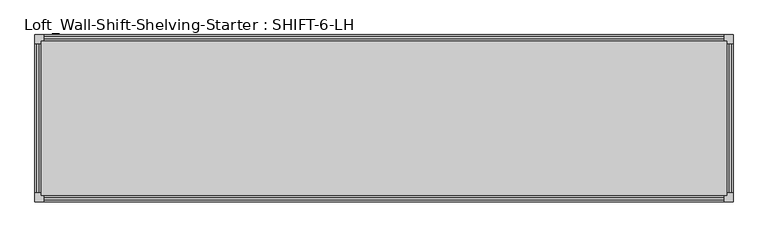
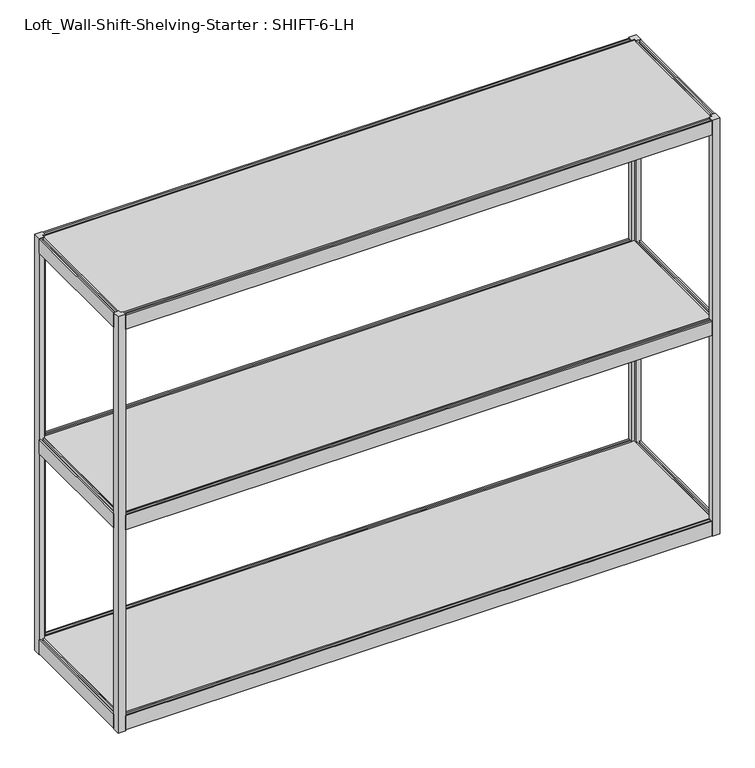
"""IFC4 building model written with IfcOpenShell, lengths in millimetres: furniture geometry, Loft_Wall-Shift-Shelving-Starter : SHIFT-6-LH."""

import ifcopenshell
import ifcopenshell.guid

model = None  # the IFC model being written
_history = None  # IfcOwnerHistory: only IFC2X3 demands one
_inside = {}  # id of a spatial element -> (the spatial element, [elements in it])
_under = {}  # id of a project, library or spatial element -> (it, [spatial elements below it])
_declared = {}  # id of a project -> (the project, [libraries it declares])
_typed = {}  # id of a type object -> (the type object, [elements of that type])
_made_of = {}  # id of a material, layer set ... -> (it, [elements and type objects made of it])


def new_model(schema):
    """Start an empty IFC model of exactly this schema.

    Asked for "IFC4X3", IfcOpenShell would pick the latest addendum, in which some entities
    have other attributes; the version numbers below select the first issue.
    IFC2X3 requires an IfcOwnerHistory on every rooted entity: one is made here for all.
    """
    global model, _history
    if schema == "IFC4X3":
        model = ifcopenshell.file(schema_version=(4, 3, 0, 0))
    else:
        model = ifcopenshell.file(schema=schema)
    _inside.clear()
    _under.clear()
    _declared.clear()
    _typed.clear()
    _made_of.clear()
    _history = None
    if model.schema == "IFC2X3":
        org = make("IfcOrganization", Name="unknown")
        user = make(
            "IfcPersonAndOrganization",
            ThePerson=make("IfcPerson", FamilyName="unknown"),
            TheOrganization=org,
        )
        app = make(
            "IfcApplication",
            ApplicationDeveloper=org,
            Version="unknown",
            ApplicationFullName="unknown",
            ApplicationIdentifier="unknown",
        )
        _history = make(
            "IfcOwnerHistory",
            OwningUser=user,
            OwningApplication=app,
            ChangeAction="ADDED",
            CreationDate=0,
        )
    return model


def make(cls, **values):
    """One entity of the class cls with the attributes given. An attribute that is None is left unset."""
    return model.create_entity(
        cls, **{name: value for name, value in values.items() if value is not None}
    )


def rooted(cls, **values):
    """An entity with a GlobalId (a new one), such as an element, a storey or a relation."""
    return make(cls, GlobalId=ifcopenshell.guid.new(), OwnerHistory=_history, **values)


def si_unit(unit_type, name, prefix=None):
    """IfcSIUnit, for example si_unit("LENGTHUNIT", "METRE", prefix="MILLI")."""
    return make("IfcSIUnit", UnitType=unit_type, Prefix=prefix, Name=name)


def assignment(units):
    """IfcUnitAssignment: the units of a project."""
    return None if units is None else make("IfcUnitAssignment", Units=units)


def point(xyz):
    """IfcCartesianPoint."""
    return None if xyz is None else make("IfcCartesianPoint", Coordinates=xyz)


def direction(xyz):
    """IfcDirection."""
    return None if xyz is None else make("IfcDirection", DirectionRatios=xyz)


def frame(location, z_axis=None, x_axis=None):
    """IfcAxis2Placement3D, a coordinate frame: its origin and axes. An axis left out is left unset."""
    return make(
        "IfcAxis2Placement3D",
        Location=point(location),
        Axis=direction(z_axis),
        RefDirection=direction(x_axis),
    )


def origin():
    """The frame at (0, 0, 0) with its axes left unset."""
    return frame((0.0, 0.0, 0.0))


def origin_with_axes():
    """The frame at (0, 0, 0) with the z axis (0, 0, 1) and the x axis (1, 0, 0) written out."""
    return frame((0.0, 0.0, 0.0), z_axis=(0.0, 0.0, 1.0), x_axis=(1.0, 0.0, 0.0))


def place(relative_to, where):
    """IfcLocalPlacement: puts the frame where relative to a parent placement (None: the world)."""
    return make(
        "IfcLocalPlacement", PlacementRelTo=relative_to, RelativePlacement=where
    )


def context(
    kind, dimensions, precision=None, world=None, true_north=None, identifier=None
):
    """IfcGeometricRepresentationContext, for example the 3D "Model" context."""
    return make(
        "IfcGeometricRepresentationContext",
        ContextIdentifier=identifier,
        ContextType=kind,
        CoordinateSpaceDimension=dimensions,
        Precision=precision,
        WorldCoordinateSystem=world,
        TrueNorth=true_north,
    )


def project(units=None, contexts=None):
    """IfcProject with its units and contexts."""
    return rooted(
        "IfcProject",
        Name="project",
        RepresentationContexts=contexts,
        UnitsInContext=assignment(units),
    )


def spatial(cls, under=None, at=None, **own):
    """A site, building, storey or space (cls), placed at a placement, below another one or the project."""
    s = rooted(cls, ObjectPlacement=at, **own)
    if under is not None:
        _under.setdefault(under.id(), (under, []))[1].append(s)
    return s


def polyline(points):
    """IfcPolyline through the points."""
    return make("IfcPolyline", Points=[point(p) for p in points])


def outline(outer, holes=None, kind="AREA"):
    """IfcArbitraryClosedProfileDef: a profile drawn as a closed curve; with holes, ...WithVoids."""
    if holes is None:
        return make("IfcArbitraryClosedProfileDef", ProfileType=kind, OuterCurve=outer)
    return make(
        "IfcArbitraryProfileDefWithVoids",
        ProfileType=kind,
        OuterCurve=outer,
        InnerCurves=holes,
    )


def extrude(swept, where, along, depth):
    """IfcExtrudedAreaSolid: the profile swept, set in the frame where, extruded along a direction by depth."""
    return make(
        "IfcExtrudedAreaSolid",
        SweptArea=swept,
        Position=where,
        ExtrudedDirection=direction(along),
        Depth=depth,
    )


def shape(context_of_items, identifier, shape_type, items):
    """IfcShapeRepresentation: the items that make up one representation, for example the "Body"."""
    return make(
        "IfcShapeRepresentation",
        ContextOfItems=context_of_items,
        RepresentationIdentifier=identifier,
        RepresentationType=shape_type,
        Items=items,
    )


def source(mapping_origin, context_of_items, identifier, shape_type, items):
    """IfcRepresentationMap: a shape defined once, which mapped items show again and again."""
    return make(
        "IfcRepresentationMap",
        MappingOrigin=mapping_origin,
        MappedRepresentation=shape(context_of_items, identifier, shape_type, items),
    )


def transform(
    local_origin,
    x_axis=None,
    y_axis=None,
    z_axis=None,
    scale=None,
    scale2=None,
    scale3=None,
    uniform=True,
):
    """IfcCartesianTransformationOperator3D, or its non-uniform kind. x_axis, y_axis, z_axis: its Axis1, 2, 3."""
    if uniform:
        return make(
            "IfcCartesianTransformationOperator3D",
            Axis1=direction(x_axis),
            Axis2=direction(y_axis),
            LocalOrigin=point(local_origin),
            Scale=scale,
            Axis3=direction(z_axis),
        )
    return make(
        "IfcCartesianTransformationOperator3DnonUniform",
        Axis1=direction(x_axis),
        Axis2=direction(y_axis),
        LocalOrigin=point(local_origin),
        Scale=scale,
        Axis3=direction(z_axis),
        Scale2=scale2,
        Scale3=scale3,
    )


def mapped(mapping_source, mapping_target):
    """IfcMappedItem: shows the shape of a source again, moved by a transform."""
    return make(
        "IfcMappedItem", MappingSource=mapping_source, MappingTarget=mapping_target
    )


def made_of(thing, what):
    """Note that an element or type object is made of a material, layer set ...; save() writes the relation."""
    if what is not None:
        _made_of.setdefault(what.id(), (what, []))[1].append(thing)
    return thing


def element(
    cls,
    number,
    at=None,
    inside=None,
    cuts=None,
    type_object=None,
    material=None,
    context=None,
    identifier="Body",
    shape_type=None,
    held_by="IfcProductDefinitionShape",
    body=None,
    shapes=None,
    **own,
):
    """One element of the class cls, such as IfcWall. Its Tag is "e" and its number.

    at: its placement. inside: the storey or other place that contains it. cuts: it is an
    opening in that element (IfcRelVoidsElement). A single representation is given by context,
    identifier, shape_type and body (its items); several are given by shapes. held_by: the class
    of the entity that holds the representations. save() writes the other relations.
    """
    e = rooted(cls, Tag="e%d" % number, ObjectPlacement=at, **own)
    if body is not None:
        shapes = [shape(context, identifier, shape_type, body)]
    if shapes is not None:
        e.Representation = make(held_by, Representations=shapes)
    if inside is not None:
        _inside.setdefault(inside.id(), (inside, []))[1].append(e)
    if cuts is not None:
        rooted(
            "IfcRelVoidsElement", RelatingBuildingElement=cuts, RelatedOpeningElement=e
        )
    if type_object is not None:
        _typed.setdefault(type_object.id(), (type_object, []))[1].append(e)
    return made_of(e, material)


def aggregate(whole, parts):
    """IfcRelAggregates: a whole, such as a stair, and the parts it consists of."""
    return rooted("IfcRelAggregates", RelatingObject=whole, RelatedObjects=parts)


def save(model, path):
    """Write the relations noted so far, then the file.

    IfcRelAggregates (storeys below a building ...), IfcRelContainedInSpatialStructure (elements
    in a storey), IfcRelDefinesByType, IfcRelAssociatesMaterial and IfcRelDeclares: one each for
    every whole, place, type object, material and project.
    """
    for whole, parts in _under.values():
        aggregate(whole, parts)
    for where, things in _inside.values():
        rooted(
            "IfcRelContainedInSpatialStructure",
            RelatedElements=things,
            RelatingStructure=where,
        )
    for kind, things in _typed.values():
        rooted("IfcRelDefinesByType", RelatedObjects=things, RelatingType=kind)
    for what, things in _made_of.values():
        rooted("IfcRelAssociatesMaterial", RelatedObjects=things, RelatingMaterial=what)
    for by, libraries in _declared.values():
        rooted("IfcRelDeclares", RelatingContext=by, RelatedDefinitions=libraries)
    model.write(path)


def loft_wall_shift_shelving_starter_shift_6_lh_b1b69f6e(model_context):
    return source(origin(), model_context, "Body", "SweptSolid", [
        extrude(outline(polyline([(690.9435, -609.6), (645.7315, -609.6), (645.7315, -605.5868), (653.3896, -605.5868), (653.3896, -598.3732), (645.7315, -598.3732), (645.7315, -594.36), (690.9435, -594.36), (690.9435, -598.3732), (683.2854, -598.3732), (683.2854, -605.5868), (690.9435, -605.5868), (690.9435, -609.6)])), frame((0.0, -196.215, 0.0), z_axis=(0.0, 1.0, 0.0), x_axis=(0.0, 0.0, 1.0)), (0.0, 0.0, 1.0), 392.43),
        extrude(outline(polyline([(690.9435, 1219.2), (690.9435, 1215.1868), (683.2854, 1215.1868), (683.2854, 1207.9732), (690.9435, 1207.9732), (690.9435, 1203.96), (645.7315, 1203.96), (645.7315, 1207.9732), (653.3896, 1207.9732), (653.3896, 1215.1868), (645.7315, 1215.1868), (645.7315, 1219.2), (690.9435, 1219.2)])), frame((0.0, -196.215, 0.0), z_axis=(0.0, 1.0, 0.0), x_axis=(0.0, 0.0, 1.0)), (0.0, 0.0, 1.0), 392.43),
        extrude(outline(polyline([(-203.835, 645.7315), (-207.8482, 645.7315), (-207.8482, 653.3896), (-215.0618, 653.3896), (-215.0618, 645.7315), (-219.075, 645.7315), (-219.075, 690.9435), (-215.0618, 690.9435), (-215.0618, 683.2854), (-207.8482, 683.2854), (-207.8482, 690.9435), (-203.835, 690.9435), (-203.835, 645.7315)])), frame((-586.74, 0.0, 0.0), z_axis=(1.0, 0.0, 0.0), x_axis=(0.0, 1.0, 0.0)), (0.0, 0.0, 1.0), 1783.08),
        extrude(outline(polyline([(203.835, 645.7315), (203.835, 690.9435), (207.8482, 690.9435), (207.8482, 683.2854), (215.0618, 683.2854), (215.0618, 690.9435), (219.075, 690.9435), (219.075, 645.7315), (215.0618, 645.7315), (215.0618, 653.3896), (207.8482, 653.3896), (207.8482, 645.7315), (203.835, 645.7315)])), frame((-586.74, 0.0, 0.0), z_axis=(1.0, 0.0, 0.0), x_axis=(0.0, 1.0, 0.0)), (0.0, 0.0, 1.0), 1783.08),
        extrude(outline(polyline([(1203.96, 203.835), (1203.96, -203.835), (-594.36, -203.835), (-594.36, 203.835), (1203.96, 203.835)])), frame((0.0, 0.0, 675.5101509), z_axis=(0.0, 0.0, 1.0), x_axis=(1.0, 0.0, 0.0)), (0.0, 0.0, 1.0), 15.4333491),
        extrude(outline(polyline([(1334.4525, -609.6), (1289.2405, -609.6), (1289.2405, -605.5868), (1296.8986, -605.5868), (1296.8986, -598.3732), (1289.2405, -598.3732), (1289.2405, -594.36), (1334.4525, -594.36), (1334.4525, -598.3732), (1326.7944, -598.3732), (1326.7944, -605.5868), (1334.4525, -605.5868), (1334.4525, -609.6)])), frame((0.0, -196.215, 0.0), z_axis=(0.0, 1.0, 0.0), x_axis=(0.0, 0.0, 1.0)), (0.0, 0.0, 1.0), 392.43),
        extrude(outline(polyline([(1334.4525, 1219.2), (1334.4525, 1215.1868), (1326.7944, 1215.1868), (1326.7944, 1207.9732), (1334.4525, 1207.9732), (1334.4525, 1203.96), (1289.2405, 1203.96), (1289.2405, 1207.9732), (1296.8986, 1207.9732), (1296.8986, 1215.1868), (1289.2405, 1215.1868), (1289.2405, 1219.2), (1334.4525, 1219.2)])), frame((0.0, -196.215, 0.0), z_axis=(0.0, 1.0, 0.0), x_axis=(0.0, 0.0, 1.0)), (0.0, 0.0, 1.0), 392.43),
        extrude(outline(polyline([(-203.835, 1289.2405), (-207.8482, 1289.2405), (-207.8482, 1296.8986), (-215.0618, 1296.8986), (-215.0618, 1289.2405), (-219.075, 1289.2405), (-219.075, 1334.4525), (-215.0618, 1334.4525), (-215.0618, 1326.7944), (-207.8482, 1326.7944), (-207.8482, 1334.4525), (-203.835, 1334.4525), (-203.835, 1289.2405)])), frame((-586.74, 0.0, 0.0), z_axis=(1.0, 0.0, 0.0), x_axis=(0.0, 1.0, 0.0)), (0.0, 0.0, 1.0), 1783.08),
        extrude(outline(polyline([(203.835, 1289.2405), (203.835, 1334.4525), (207.8482, 1334.4525), (207.8482, 1326.7944), (215.0618, 1326.7944), (215.0618, 1334.4525), (219.075, 1334.4525), (219.075, 1289.2405), (215.0618, 1289.2405), (215.0618, 1296.8986), (207.8482, 1296.8986), (207.8482, 1289.2405), (203.835, 1289.2405)])), frame((-586.74, 0.0, 0.0), z_axis=(1.0, 0.0, 0.0), x_axis=(0.0, 1.0, 0.0)), (0.0, 0.0, 1.0), 1783.08),
        extrude(outline(polyline([(1203.96, 203.835), (1203.96, -203.835), (-594.36, -203.835), (-594.36, 203.835), (1203.96, 203.835)])), frame((0.0, 0.0, 1319.0191509), z_axis=(0.0, 0.0, 1.0), x_axis=(1.0, 0.0, 0.0)), (0.0, 0.0, 1.0), 15.4333491),
        extrude(outline(polyline([(47.4345, -609.6), (2.2225, -609.6), (2.2225, -605.5868), (9.8806, -605.5868), (9.8806, -598.3732), (2.2225, -598.3732), (2.2225, -594.36), (47.4345, -594.36), (47.4345, -598.3732), (39.7764, -598.3732), (39.7764, -605.5868), (47.4345, -605.5868), (47.4345, -609.6)])), frame((0.0, -196.215, 0.0), z_axis=(0.0, 1.0, 0.0), x_axis=(0.0, 0.0, 1.0)), (0.0, 0.0, 1.0), 392.43),
        extrude(outline(polyline([(47.4345, 1219.2), (47.4345, 1215.1868), (39.7764, 1215.1868), (39.7764, 1207.9732), (47.4345, 1207.9732), (47.4345, 1203.96), (2.2225, 1203.96), (2.2225, 1207.9732), (9.8806, 1207.9732), (9.8806, 1215.1868), (2.2225, 1215.1868), (2.2225, 1219.2), (47.4345, 1219.2)])), frame((0.0, -196.215, 0.0), z_axis=(0.0, 1.0, 0.0), x_axis=(0.0, 0.0, 1.0)), (0.0, 0.0, 1.0), 392.43),
        extrude(outline(polyline([(-203.835, 2.2225), (-207.8482, 2.2225), (-207.8482, 9.8806), (-215.0618, 9.8806), (-215.0618, 2.2225), (-219.075, 2.2225), (-219.075, 47.4345), (-215.0618, 47.4345), (-215.0618, 39.7764), (-207.8482, 39.7764), (-207.8482, 47.4345), (-203.835, 47.4345), (-203.835, 2.2225)])), frame((-586.74, 0.0, 0.0), z_axis=(1.0, 0.0, 0.0), x_axis=(0.0, 1.0, 0.0)), (0.0, 0.0, 1.0), 1783.08),
        extrude(outline(polyline([(203.835, 2.2225), (203.835, 47.4345), (207.8482, 47.4345), (207.8482, 39.7764), (215.0618, 39.7764), (215.0618, 47.4345), (219.075, 47.4345), (219.075, 2.2225), (215.0618, 2.2225), (215.0618, 9.8806), (207.8482, 9.8806), (207.8482, 2.2225), (203.835, 2.2225)])), frame((-586.74, 0.0, 0.0), z_axis=(1.0, 0.0, 0.0), x_axis=(0.0, 1.0, 0.0)), (0.0, 0.0, 1.0), 1783.08),
        extrude(outline(polyline([(1203.96, 203.835), (1203.96, -203.835), (-594.36, -203.835), (-594.36, 203.835), (1203.96, 203.835)])), frame((0.0, 0.0, 32.0011509), z_axis=(0.0, 0.0, 1.0), x_axis=(1.0, 0.0, 0.0)), (0.0, 0.0, 1.0), 15.4333491),
        extrude(outline(polyline([(-586.74, -203.835), (-586.74, -219.075), (-609.6, -219.075), (-609.6, -196.215), (-594.36, -196.215), (-594.36, -203.835), (-586.74, -203.835)])), origin_with_axes(), (0.0, 0.0, 1.0), 1336.675),
        extrude(outline(polyline([(1196.34, -203.835), (1203.96, -203.835), (1203.96, -196.215), (1219.2, -196.215), (1219.2, -219.075), (1196.34, -219.075), (1196.34, -203.835)])), origin_with_axes(), (0.0, 0.0, 1.0), 1336.675),
        extrude(outline(polyline([(-586.74, 203.835), (-594.36, 203.835), (-594.36, 196.215), (-609.6, 196.215), (-609.6, 219.075), (-586.74, 219.075), (-586.74, 203.835)])), origin_with_axes(), (0.0, 0.0, 1.0), 1336.675),
        extrude(outline(polyline([(1196.34, 203.835), (1196.34, 219.075), (1219.2, 219.075), (1219.2, 196.215), (1203.96, 196.215), (1203.96, 203.835), (1196.34, 203.835)])), origin_with_axes(), (0.0, 0.0, 1.0), 1336.675),
    ])


if __name__ == "__main__":
    model = new_model("IFC4")
    model_context = context("Model", 3, world=origin())
    ifc_project = project(units=[si_unit("LENGTHUNIT", "METRE", prefix="MILLI")], contexts=[model_context])
    site = spatial("IfcSite", under=ifc_project)
    building = spatial("IfcBuilding", under=site)
    placement = place(None, origin())
    loft_wall_shift_shelving_starter_shift_6_lh_shape = loft_wall_shift_shelving_starter_shift_6_lh_b1b69f6e(model_context)
    element("IfcFurniture", 1, ObjectType="Loft_Wall-Shift-Shelving-Starter : SHIFT-6-LH", at=placement, inside=building, context=model_context, shape_type="MappedRepresentation", body=[
        mapped(loft_wall_shift_shelving_starter_shift_6_lh_shape, transform((0.0, 0.0, 0.0), x_axis=(1.0, 0.0, 0.0), y_axis=(0.0, 1.0, 0.0), z_axis=(0.0, 0.0, 1.0))),
    ])
    save(model, "model.ifc")
